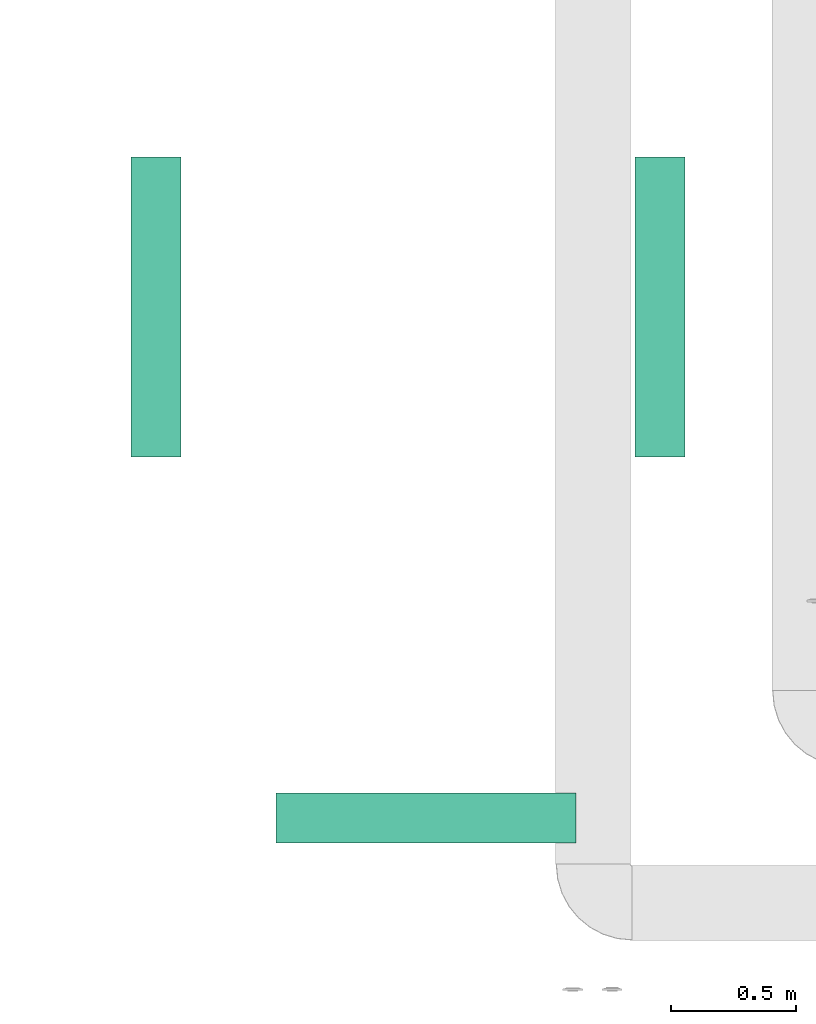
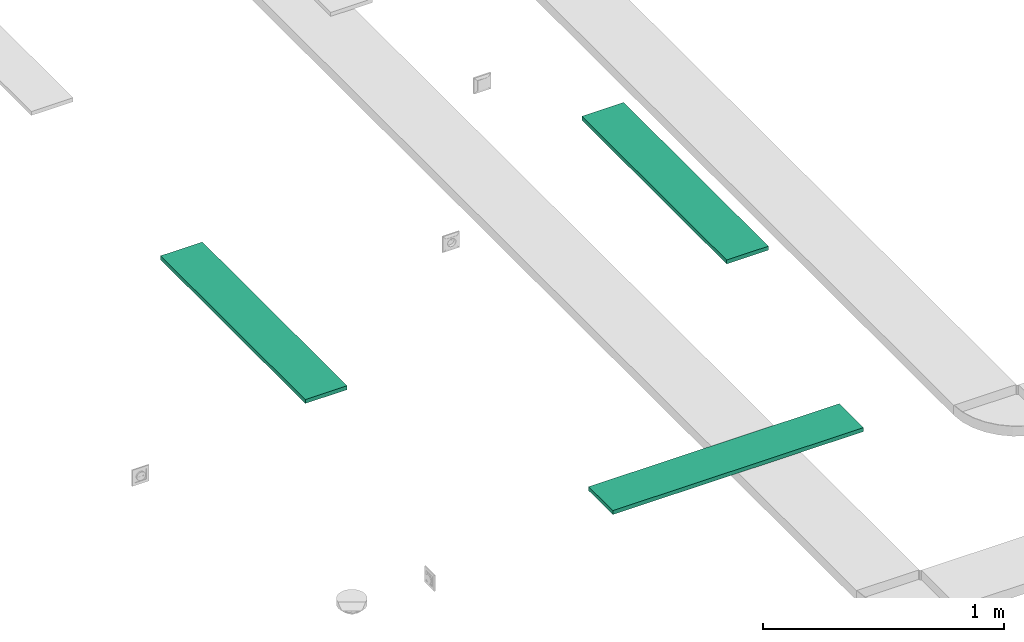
# One storey, part 1 of 153: 3 flow terminals.
"""IFC2X3 building model written with IfcOpenShell, lengths in metres."""

from ifc_helpers import new_model, entity, si_unit, converted_unit, derived_unit, direction, frame, origin, origin_2d_with_axis, place, context, subcontext, project, spatial, rectangle, extrude, source, transform, mapped, type_object, type_shapes, element, save


model = new_model("IFC2X3")

# Units and contexts
model_context = context("Model", 3, precision=1e-05, world=origin(), true_north=direction((6.12303176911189e-17, 1.0)))
body_context = subcontext(model_context, "Body", "Model", "MODEL_VIEW")
ifc_project = project(units=[si_unit("LENGTHUNIT", "METRE"), si_unit("AREAUNIT", "SQUARE_METRE"), si_unit("VOLUMEUNIT", "CUBIC_METRE"), converted_unit("PLANEANGLEUNIT", "DEGREE", entity("IfcRatioMeasure", 0.0174532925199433), si_unit("PLANEANGLEUNIT", "RADIAN"), dimensions=[0, 0, 0, 0, 0, 0, 0]), si_unit("MASSUNIT", "GRAM", prefix="KILO"), derived_unit("MASSDENSITYUNIT", [(si_unit("MASSUNIT", "GRAM", prefix="KILO"), 1), (si_unit("LENGTHUNIT", "METRE"), -3)]), si_unit("TIMEUNIT", "SECOND"), si_unit("FREQUENCYUNIT", "HERTZ"), si_unit("THERMODYNAMICTEMPERATUREUNIT", "DEGREE_CELSIUS"), derived_unit("THERMALTRANSMITTANCEUNIT", [(si_unit("MASSUNIT", "GRAM", prefix="KILO"), 1), (si_unit("THERMODYNAMICTEMPERATUREUNIT", "KELVIN"), -1), (si_unit("TIMEUNIT", "SECOND"), -3)]), derived_unit("VOLUMETRICFLOWRATEUNIT", [(si_unit("LENGTHUNIT", "METRE"), 3), (si_unit("TIMEUNIT", "SECOND"), -1)]), si_unit("ELECTRICCURRENTUNIT", "AMPERE"), si_unit("ELECTRICVOLTAGEUNIT", "VOLT"), si_unit("POWERUNIT", "WATT"), si_unit("FORCEUNIT", "NEWTON"), si_unit("ILLUMINANCEUNIT", "LUX"), si_unit("LUMINOUSFLUXUNIT", "LUMEN"), si_unit("LUMINOUSINTENSITYUNIT", "CANDELA"), derived_unit("USERDEFINED", [(si_unit("MASSUNIT", "GRAM", prefix="KILO"), -1), (si_unit("LENGTHUNIT", "METRE"), -2), (si_unit("TIMEUNIT", "SECOND"), 3), (si_unit("LUMINOUSFLUXUNIT", "LUMEN"), 1)]), derived_unit("LINEARVELOCITYUNIT", [(si_unit("LENGTHUNIT", "METRE"), 1), (si_unit("TIMEUNIT", "SECOND"), -1)]), si_unit("PRESSUREUNIT", "PASCAL"), derived_unit("USERDEFINED", [(si_unit("LENGTHUNIT", "METRE"), -2), (si_unit("MASSUNIT", "GRAM", prefix="KILO"), 1), (si_unit("TIMEUNIT", "SECOND"), -2)])], contexts=[model_context])

# Site, building, storey
site_placement = place(None, origin())
site = spatial("IfcSite", under=ifc_project, at=site_placement, Name="Default", CompositionType="ELEMENT")
building_placement = place(site_placement, origin())
building = spatial("IfcBuilding", under=site, at=building_placement, CompositionType="ELEMENT")
storey_placement = place(building_placement, frame((0.0, 0.0, -4.62)))
storey = spatial("IfcBuildingStorey", under=building, at=storey_placement, Name="S02", CompositionType="ELEMENT", Elevation=-4.62)

# Flow terminals
light_fixture_type = type_object("IfcLightFixtureType", Name="B_Réglete étanche", PredefinedType="NOTDEFINED")
shared_shape = source(origin(), body_context, "Body", "SweptSolid", [
    extrude(rectangle(XDim=0.199999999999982, YDim=1.2, at=origin_2d_with_axis()), frame((0.0, 0.0, 0.0), z_axis=(0.0, 0.0, 1.0), x_axis=(0.0, 1.0, 0.0)), (0.0, 0.0, 1.0), 0.02),
])
type_shapes(light_fixture_type, [shared_shape])
for number, where, z_axis, x_axis in (
    (1, (34.4840439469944, -192.007623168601, 4.175), (0.0, 0.0, -1.0), (0.0, -1.0, 0.0)),
    (2, (36.5010439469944, -192.007623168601, 4.175), (0.0, 0.0, -1.0), (0.0, -1.0, 0.0)),
    (3, (35.5651044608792, -194.050515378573, 4.345), (0.0, 0.0, -1.0), (-1.0, 0.0, 0.0)),
):
    element("IfcFlowTerminal", number, at=place(storey_placement, frame(where, z_axis=z_axis, x_axis=x_axis)), inside=storey, type_object=light_fixture_type, Name="II_PREF_Type B Réglette étanche:B_Réglete étanche", ObjectType="II_PREF_Type B Réglette étanche:B_Réglete étanche", context=body_context, shape_type="MappedRepresentation", body=[
        mapped(shared_shape, transform((0.0, 0.0, 0.0), scale=1.0)),
    ])

save(model, "model.ifc")
